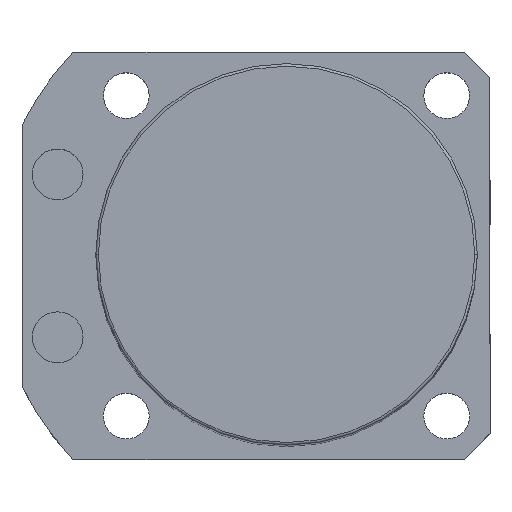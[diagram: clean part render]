
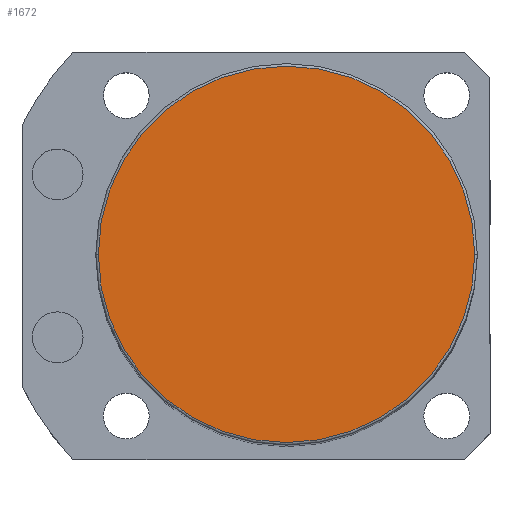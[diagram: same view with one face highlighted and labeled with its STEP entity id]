
A CAD part, top view. The second image highlights one B-rep face of the part: STEP entity #1672.
In plain terms, the highlighted planar face has unit normal (0, 0, 1).
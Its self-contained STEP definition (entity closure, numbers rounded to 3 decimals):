
#179 = DIRECTION ( 'NONE',  ( 0., 0., 1. ) ) ;
#189 = AXIS2_PLACEMENT_3D ( 'NONE', #1253, #1931, #820 ) ;
#409 = VERTEX_POINT ( 'NONE', #1116 ) ;
#410 = CARTESIAN_POINT ( 'NONE',  ( 0., 0., 185.5 ) ) ;
#713 = VERTEX_POINT ( 'NONE', #902 ) ;
#793 = PLANE ( 'NONE',  #2811 ) ;
#820 = DIRECTION ( 'NONE',  ( 1., 0., 0. ) ) ;
#902 = CARTESIAN_POINT ( 'NONE',  ( 37., 0., 185.5 ) ) ;
#1047 = ORIENTED_EDGE ( 'NONE', *, *, #1502, .T. ) ;
#1116 = CARTESIAN_POINT ( 'NONE',  ( -37., 0., 185.5 ) ) ;
#1253 = CARTESIAN_POINT ( 'NONE',  ( 0., 0., 185.5 ) ) ;
#1364 = ORIENTED_EDGE ( 'NONE', *, *, #1576, .T. ) ;
#1502 = EDGE_CURVE ( 'NONE', #409, #713, #2712, .T. ) ;
#1576 = EDGE_CURVE ( 'NONE', #713, #409, #2675, .T. ) ;
#1672 = ADVANCED_FACE ( 'NONE', ( #1891 ), #793, .T. ) ;
#1891 = FACE_OUTER_BOUND ( 'NONE', #2618, .T. ) ;
#1931 = DIRECTION ( 'NONE',  ( 0., 0., 1. ) ) ;
#2159 = DIRECTION ( 'NONE',  ( 1., 0., 0. ) ) ;
#2377 = DIRECTION ( 'NONE',  ( 0., 0., 1. ) ) ;
#2554 = CARTESIAN_POINT ( 'NONE',  ( 0., 0., 185.5 ) ) ;
#2592 = DIRECTION ( 'NONE',  ( 1., 0., 0. ) ) ;
#2603 = AXIS2_PLACEMENT_3D ( 'NONE', #410, #2377, #2592 ) ;
#2618 = EDGE_LOOP ( 'NONE', ( #1364, #1047 ) ) ;
#2675 = CIRCLE ( 'NONE', #189, 37. ) ;
#2712 = CIRCLE ( 'NONE', #2603, 37. ) ;
#2811 = AXIS2_PLACEMENT_3D ( 'NONE', #2554, #179, #2159 ) ;
